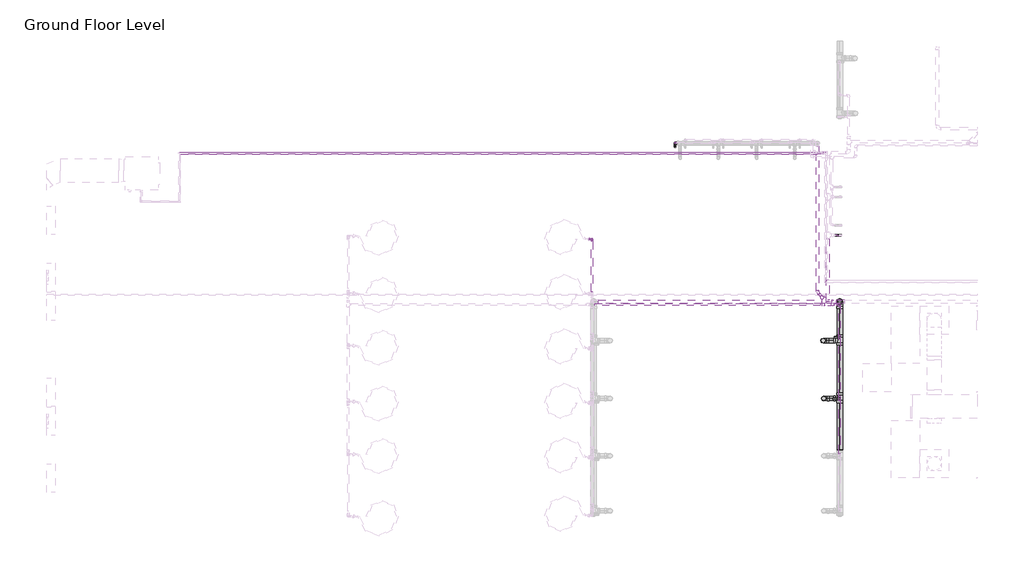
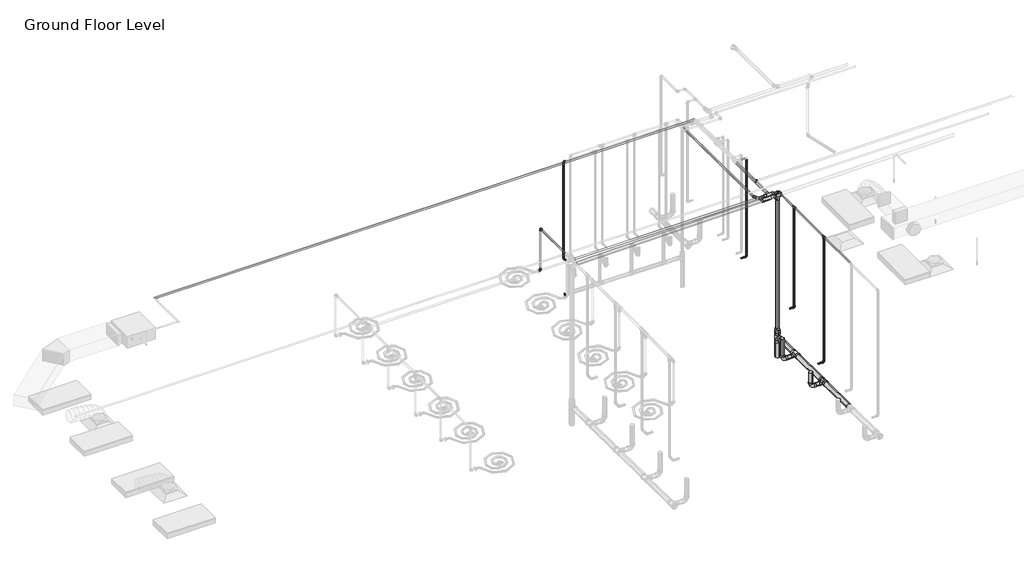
# One storey, part 6 of 75: 34 pipe segments, 26 pipe fittings.
"""IFC4 building model written with IfcOpenShell, lengths in millimetres."""

from ifc_helpers import new_model, si_unit, point, frame, frame_2d, origin, place, context, project, spatial, circle_curve, trimmed, segment, composite_curve, outline, extrude, transform, mapped, element, save
from components import m_bend_pvc_sch_40_dwv_standard_a4b99d37, m_bend_pvc_sch_40_dwv_standard_e3c94691, m_elbow_generic_standard_a088f956, m_elbow_generic_standard_2a704253, m_plug_pvc_sch_40_dwv_standard_af737ab4, m_reducer_pvc_sch_40_dwv_standard_9996614f, m_reducer_pvc_sch_40_dwv_standard_d5f313ea, m_tee_pvc_sch_40_standard_f738ad92, m_tee_reducing_sanitary_pvc_sch_40_dwv_standard_b49161a9, m_tee_reducing_sanitary_pvc_sch_40_dwv_standard_b574f8c1, m_tee_reducing_sanitary_pvc_sch_40_dwv_standard_749dcb00, standard_b266ab3f, standard_517a5a8d, standard_72b35c3b, standard_cd25fed3, standard_f1337950, standard_92e3b147, standard_96815b99

model = new_model("IFC4")

# Units and contexts
model_context = context("Model", 3, world=origin())
ifc_project = project(units=[si_unit("LENGTHUNIT", "METRE", prefix="MILLI")], contexts=[model_context])

# Site, building, storey
site = spatial("IfcSite", under=ifc_project)
building = spatial("IfcBuilding", under=site)
storey = spatial("IfcBuildingStorey", under=building, Name="Ground Floor Level", Elevation=900.0)

# Pipe fittings
placement = place(None, origin())
m_bend_pvc_sch_40_dwv_standard_shape = m_bend_pvc_sch_40_dwv_standard_a4b99d37(model_context)
element("IfcPipeFitting", 1, ObjectType="M_Bend - PVC - Sch 40 - DWV : Standard", at=placement, inside=storey, context=model_context, shape_type="MappedRepresentation", body=[
    mapped(m_bend_pvc_sch_40_dwv_standard_shape, transform((-968.6302333, -38202.7929166, 451.1165277), x_axis=(0.0, 0.0, -1.0), y_axis=(1.0, 0.0, 0.0), z_axis=(0.0, -1.0, 0.0))),
])
element("IfcPipeFitting", 2, ObjectType="M_Bend - PVC - Sch 40 - DWV : Standard", at=placement, inside=storey, context=model_context, shape_type="MappedRepresentation", body=[
    mapped(m_bend_pvc_sch_40_dwv_standard_shape, transform((-980.7754578, -36991.6976494, 439.005575), x_axis=(0.0, 0.0, -1.0), y_axis=(1.0, 0.0, 0.0), z_axis=(0.0, -1.0, 0.0))),
])
m_bend_pvc_sch_40_dwv_standard_2_shape = m_bend_pvc_sch_40_dwv_standard_e3c94691(model_context)
element("IfcPipeFitting", 3, ObjectType="M_Bend - PVC - Sch 40 - DWV : Standard", at=placement, inside=storey, context=model_context, shape_type="MappedRepresentation", body=[
    mapped(m_bend_pvc_sch_40_dwv_standard_2_shape, transform((-1099.4034743, -35983.4440089, 4158.2853209), x_axis=(0.0, -0.9999500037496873, 0.009999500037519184), y_axis=(0.9999712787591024, 7.578648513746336e-05, 0.0075786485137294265), z_axis=(-0.0075790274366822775, 0.00999921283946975, 0.999921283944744))),
])
m_elbow_generic_standard_shape = m_elbow_generic_standard_a088f956(model_context)
element("IfcPipeFitting", 4, ObjectType="M_Elbow - Generic : Standard", at=placement, inside=storey, context=model_context, shape_type="MappedRepresentation", body=[
    mapped(m_elbow_generic_standard_shape, transform((-897.1048173, -35730.466218, 4390.0), x_axis=(0.0, -1.0, 0.0), y_axis=(1.0, 0.0, 0.0), z_axis=(0.0, 0.0, 1.0))),
])
m_elbow_generic_standard_2_shape = m_elbow_generic_standard_2a704253(model_context)
element("IfcPipeFitting", 5, ObjectType="M_Elbow - Generic : Standard", at=placement, inside=storey, context=model_context, shape_type="MappedRepresentation", body=[
    mapped(m_elbow_generic_standard_2_shape, transform((-941.0095887, -35773.5402522, 4377.5), x_axis=(0.0, -1.0, 0.0), y_axis=(1.0, 0.0, 0.0), z_axis=(0.0, 0.0, 1.0))),
])
m_plug_pvc_sch_40_dwv_standard_shape = m_plug_pvc_sch_40_dwv_standard_af737ab4(model_context)
element("IfcPipeFitting", 6, ObjectType="M_Plug - PVC - Sch 40 - DWV : Standard", at=placement, inside=storey, context=model_context, shape_type="MappedRepresentation", body=[
    mapped(m_plug_pvc_sch_40_dwv_standard_shape, transform((-4032.6980903, -32858.7119065, 719.0298098), x_axis=(-0.9999500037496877, 0.0, 0.009999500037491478), y_axis=(-0.009999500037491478, 0.0, -0.9999500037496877), z_axis=(0.0, -1.0, 0.0))),
])
m_reducer_pvc_sch_40_dwv_standard_shape = m_reducer_pvc_sch_40_dwv_standard_9996614f(model_context)
element("IfcPipeFitting", 7, ObjectType="M_Reducer - PVC - Sch 40 - DWV : Standard", at=placement, inside=storey, context=model_context, shape_type="MappedRepresentation", body=[
    mapped(m_reducer_pvc_sch_40_dwv_standard_shape, transform((-633.5600391, -36176.1401483, 560.1642409), x_axis=(0.0, 0.0, 1.0), y_axis=(0.0, 1.0, 0.0), z_axis=(-1.0, 0.0, 0.0))),
])
m_reducer_pvc_sch_40_dwv_standard_2_shape = m_reducer_pvc_sch_40_dwv_standard_d5f313ea(model_context)
element("IfcPipeFitting", 8, ObjectType="M_Reducer - PVC - Sch 40 - DWV : Standard", at=placement, inside=storey, context=model_context, shape_type="MappedRepresentation", body=[
    mapped(m_reducer_pvc_sch_40_dwv_standard_2_shape, transform((-978.5266614, -36104.3135805, 4160.1162588), x_axis=(-0.7070640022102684, 0.7070403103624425, -0.012429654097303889), y_axis=(-0.7070788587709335, -0.7071326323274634, -0.0017110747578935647), z_axis=(-0.009999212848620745, 0.007578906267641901, 0.9999212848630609))),
])
m_tee_pvc_sch_40_standard_shape = m_tee_pvc_sch_40_standard_f738ad92(model_context)
element("IfcPipeFitting", 9, ObjectType="M_Tee - PVC - Sch 40 : Standard", at=placement, inside=storey, context=model_context, shape_type="MappedRepresentation", body=[
    mapped(m_tee_pvc_sch_40_standard_shape, transform((-906.6976867, -36176.1401483, 4161.3789582), x_axis=(0.9999500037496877, 0.0, 0.009999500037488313), y_axis=(-7.578527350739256e-05, -0.9999712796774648, 0.007578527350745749), z_axis=(0.009999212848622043, -0.0075789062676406, -0.9999212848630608))),
])
m_tee_reducing_sanitary_pvc_sch_40_dwv_standard_shape = m_tee_reducing_sanitary_pvc_sch_40_dwv_standard_b49161a9(model_context)
element("IfcPipeFitting", 10, ObjectType="M_Tee Reducing Sanitary - PVC - Sch 40 - DWV : Standard", at=placement, inside=storey, context=model_context, shape_type="MappedRepresentation", body=[
    mapped(m_tee_reducing_sanitary_pvc_sch_40_dwv_standard_shape, transform((-633.5600391, -38202.7914168, 451.2665127), x_axis=(0.0, -0.9999500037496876, 0.009999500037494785), y_axis=(1.0, 0.0, 0.0), z_axis=(0.0, 0.009999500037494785, 0.9999500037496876))),
])
element("IfcPipeFitting", 11, ObjectType="M_Tee Reducing Sanitary - PVC - Sch 40 - DWV : Standard", at=placement, inside=storey, context=model_context, shape_type="MappedRepresentation", body=[
    mapped(m_tee_reducing_sanitary_pvc_sch_40_dwv_standard_shape, transform((-633.5600391, -36991.6961495, 439.15556), x_axis=(0.0, -0.9999500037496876, 0.0099995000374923), y_axis=(1.0, 0.0, 0.0), z_axis=(0.0, 0.0099995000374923, 0.9999500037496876))),
])
m_tee_reducing_sanitary_pvc_sch_40_dwv_standard_2_shape = m_tee_reducing_sanitary_pvc_sch_40_dwv_standard_b574f8c1(model_context)
element("IfcPipeFitting", 12, ObjectType="M_Tee Reducing Sanitary - PVC - Sch 40 - DWV : Standard", at=placement, inside=storey, context=model_context, shape_type="MappedRepresentation", body=[
    mapped(m_tee_reducing_sanitary_pvc_sch_40_dwv_standard_2_shape, transform((-633.5600391, -36176.1401483, 4164.1103347), x_axis=(-0.9999500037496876, 0.0, -0.009999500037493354), y_axis=(-0.009999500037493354, 0.0, 0.9999500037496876), z_axis=(0.0, 1.0, 0.0))),
])
m_tee_reducing_sanitary_pvc_sch_40_dwv_standard_3_shape = m_tee_reducing_sanitary_pvc_sch_40_dwv_standard_749dcb00(model_context)
element("IfcPipeFitting", 13, ObjectType="M_Tee Reducing Sanitary - PVC - Sch 40 - DWV : Standard", at=placement, inside=storey, context=model_context, shape_type="MappedRepresentation", body=[
    mapped(m_tee_reducing_sanitary_pvc_sch_40_dwv_standard_3_shape, transform((-633.5600391, -36176.1401483, 431.0), x_axis=(0.0, 0.0, 1.0), y_axis=(0.0, 1.0, 0.0), z_axis=(-1.0, 0.0, 0.0))),
])
standard_shape = standard_b266ab3f(model_context)
element("IfcPipeFitting", 14, ObjectType="M_Elbow - CPVC - Sch 40 : Standard", at=placement, inside=storey, context=model_context, shape_type="MappedRepresentation", body=[
    mapped(standard_shape, transform((-607.2327605, -34785.0821277, 1690.0), x_axis=(1.0, 0.0, 0.0), y_axis=(0.0, 0.0, 1.0), z_axis=(0.0, -1.0, 0.0))),
])
element("IfcPipeFitting", 15, ObjectType="M_Elbow - CPVC - Sch 40 : Standard", at=placement, inside=storey, context=model_context, shape_type="MappedRepresentation", body=[
    mapped(standard_shape, transform((-4077.5302417, -32850.870708, 1690.0), x_axis=(0.0, 0.0, -1.0), y_axis=(0.0, -1.0, 0.0), z_axis=(-1.0, 0.0, 0.0))),
])
element("IfcPipeFitting", 16, ObjectType="M_Elbow - CPVC - Sch 40 : Standard", at=placement, inside=storey, context=model_context, shape_type="MappedRepresentation", body=[
    mapped(standard_shape, transform((-4077.5302417, -32850.870708, 4250.0), x_axis=(-1.0, 0.0, 0.0), y_axis=(0.0, 0.0, -1.0), z_axis=(0.0, -1.0, 0.0))),
])
standard_2_shape = standard_517a5a8d(model_context)
element("IfcPipeFitting", 17, ObjectType="M_Elbow - CPVC - Sch 40 : Standard", at=placement, inside=storey, context=model_context, shape_type="MappedRepresentation", body=[
    mapped(standard_2_shape, transform((-639.6485359, -36234.6855451, 4300.0), x_axis=(0.0, 1.0, 0.0), y_axis=(-1.0, 0.0, 0.0), z_axis=(0.0, 0.0, 1.0))),
])
element("IfcPipeFitting", 18, ObjectType="M_Elbow - CPVC - Sch 40 : Standard", at=placement, inside=storey, context=model_context, shape_type="MappedRepresentation", body=[
    mapped(standard_2_shape, transform((-639.6485359, -36918.2588832, 1655.0), x_axis=(0.0, 0.0, -1.0), y_axis=(-1.0, 0.0, 0.0), z_axis=(0.0, 1.0, 0.0))),
])
element("IfcPipeFitting", 19, ObjectType="M_Elbow - CPVC - Sch 40 : Standard", at=placement, inside=storey, context=model_context, shape_type="MappedRepresentation", body=[
    mapped(standard_2_shape, transform((-5815.4900472, -34864.6926466, 3200.0), x_axis=(1.0, 0.0, 0.0), y_axis=(0.0, 0.0, 1.0), z_axis=(0.0, -1.0, 0.0))),
])
element("IfcPipeFitting", 20, ObjectType="M_Elbow - CPVC - Sch 40 : Standard", at=placement, inside=storey, context=model_context, shape_type="MappedRepresentation", body=[
    mapped(standard_2_shape, transform((-5815.4900472, -34864.6926466, 4300.0), x_axis=(0.0, 0.0, 1.0), y_axis=(0.0, -1.0, 0.0), z_axis=(1.0, 0.0, 0.0))),
])
standard_3_shape = standard_72b35c3b(model_context)
element("IfcPipeFitting", 21, ObjectType="M_Tee - CPVC - Sch 40 : Standard", at=placement, inside=storey, context=model_context, shape_type="MappedRepresentation", body=[
    mapped(standard_3_shape, transform((-639.6485359, -38202.7929166, 4300.0), x_axis=(0.0, -1.0, 0.0), y_axis=(0.0, 0.0, 1.0), z_axis=(-1.0, 0.0, 0.0))),
])
element("IfcPipeFitting", 22, ObjectType="M_Tee - CPVC - Sch 40 : Standard", at=placement, inside=storey, context=model_context, shape_type="MappedRepresentation", body=[
    mapped(standard_3_shape, transform((-639.6485359, -36918.2588832, 4300.0), x_axis=(0.0, -1.0, 0.0), y_axis=(0.0, 0.0, 1.0), z_axis=(-1.0, 0.0, 0.0))),
])
standard_4_shape = standard_cd25fed3(model_context)
element("IfcPipeFitting", 23, ObjectType="M_Tee - CPVC - Sch 40 : Standard", at=placement, inside=storey, context=model_context, shape_type="MappedRepresentation", body=[
    mapped(standard_4_shape, transform((-881.5205995, -36234.6855451, 4300.0), x_axis=(-1.0, 0.0, 0.0), y_axis=(0.0, -1.0, 0.0), z_axis=(0.0, 0.0, 1.0))),
])
standard_5_shape = standard_f1337950(model_context)
element("IfcPipeFitting", 24, ObjectType="M_Coupling Reducing - CPVC - Sch 40 : Standard", at=placement, inside=storey, context=model_context, shape_type="MappedRepresentation", body=[
    mapped(standard_5_shape, transform((-814.8455995, -36234.6855451, 4300.0), x_axis=(1.0, 0.0, 0.0), y_axis=(0.0, 1.0, 0.0), z_axis=(0.0, 0.0, 1.0))),
])
standard_6_shape = standard_92e3b147(model_context)
element("IfcPipeFitting", 25, ObjectType="M_Coupling Reducing - CPVC - Sch 40 : Standard", at=placement, inside=storey, context=model_context, shape_type="MappedRepresentation", body=[
    mapped(standard_6_shape, transform((-948.1955995, -36234.6855451, 4300.0), x_axis=(-1.0, 0.0, 0.0), y_axis=(0.0, -1.0, 0.0), z_axis=(0.0, 0.0, 1.0))),
])
standard_7_shape = standard_96815b99(model_context)
element("IfcPipeFitting", 26, ObjectType="M_Elbow - CPVC - Sch 40 : Standard", at=placement, inside=storey, context=model_context, shape_type="MappedRepresentation", body=[
    mapped(standard_7_shape, transform((-639.6485359, -38202.7929166, 983.4999978), x_axis=(0.0, 0.0, -1.0), y_axis=(-1.0, 0.0, 0.0), z_axis=(0.0, 1.0, 0.0))),
])

# Pipe segments
element("IfcPipeSegment", 27, ObjectType="CPVC", at=placement, inside=storey, context=model_context, shape_type="SweptSolid", body=[
    extrude(outline(composite_curve([segment(trimmed(circle_curve(frame_2d((4300.0, -881.5205995)), 30.1625), [point((4300.0, -911.6830995))], [point((4269.8375, -881.5205995))], False, "CARTESIAN"), True, "CONTINUOUS"), segment(trimmed(circle_curve(frame_2d((4300.0, -881.5205995)), 30.1625), [point((4269.8375, -881.5205995))], [point((4300.0, -851.3580995))], False, "CARTESIAN"), True, "CONTINUOUS"), segment(trimmed(circle_curve(frame_2d((4300.0, -881.5205995)), 30.1625), [point((4300.0, -851.3580995))], [point((4330.1625, -881.5205995))], False, "CARTESIAN"), True, "CONTINUOUS"), segment(trimmed(circle_curve(frame_2d((4300.0, -881.5205995)), 30.1625), [point((4330.1625, -881.5205995))], [point((4300.0, -911.6830995))], False, "CARTESIAN"), True, "CONTINUOUS")], self_intersect=False)), frame((0.0, -36168.0105451, 0.0), z_axis=(0.0, 1.0, 0.0), x_axis=(0.0, 0.0, 1.0)), (0.0, 0.0, 1.0), 1316.2534174),
])
element("IfcPipeSegment", 28, ObjectType="CPVC", at=placement, inside=storey, context=model_context, shape_type="SweptSolid", body=[
    extrude(outline(composite_curve([segment(trimmed(circle_curve(frame_2d((-36234.6855451, 4300.0)), 16.7005), [point((-36251.3860451, 4300.0))], [point((-36234.6855451, 4316.7005))], False, "CARTESIAN"), True, "CONTINUOUS"), segment(trimmed(circle_curve(frame_2d((-36234.6855451, 4300.0)), 16.7005), [point((-36234.6855451, 4316.7005))], [point((-36217.9850451, 4300.0))], False, "CARTESIAN"), True, "CONTINUOUS"), segment(trimmed(circle_curve(frame_2d((-36234.6855451, 4300.0)), 16.7005), [point((-36217.9850451, 4300.0))], [point((-36234.6855451, 4283.2995))], False, "CARTESIAN"), True, "CONTINUOUS"), segment(trimmed(circle_curve(frame_2d((-36234.6855451, 4300.0)), 16.7005), [point((-36234.6855451, 4283.2995))], [point((-36251.3860451, 4300.0))], False, "CARTESIAN"), True, "CONTINUOUS")], self_intersect=False)), frame((-735.0467245, 0.0, 0.0), z_axis=(1.0, 0.0, 0.0), x_axis=(0.0, 1.0, 0.0)), (0.0, 0.0, 1.0), 52.1356386),
])
element("IfcPipeSegment", 29, ObjectType="CPVC", at=placement, inside=storey, context=model_context, shape_type="SweptSolid", body=[
    extrude(outline(composite_curve([segment(trimmed(circle_curve(frame_2d((4300.0, -639.6485359)), 16.7005), [point((4300.0, -656.3490359))], [point((4283.2995, -639.6485359))], False, "CARTESIAN"), True, "CONTINUOUS"), segment(trimmed(circle_curve(frame_2d((4300.0, -639.6485359)), 16.7005), [point((4283.2995, -639.6485359))], [point((4300.0, -622.9480359))], False, "CARTESIAN"), True, "CONTINUOUS"), segment(trimmed(circle_curve(frame_2d((4300.0, -639.6485359)), 16.7005), [point((4300.0, -622.9480359))], [point((4316.7005, -639.6485359))], False, "CARTESIAN"), True, "CONTINUOUS"), segment(trimmed(circle_curve(frame_2d((4300.0, -639.6485359)), 16.7005), [point((4316.7005, -639.6485359))], [point((4300.0, -656.3490359))], False, "CARTESIAN"), True, "CONTINUOUS")], self_intersect=False)), frame((0.0, -39363.1023066, 0.0), z_axis=(0.0, 1.0, 0.0), x_axis=(0.0, 0.0, 1.0)), (0.0, 0.0, 1.0), 1120.60919),
])
element("IfcPipeSegment", 30, ObjectType="CPVC", at=placement, inside=storey, context=model_context, shape_type="SweptSolid", body=[
    extrude(outline(composite_curve([segment(trimmed(circle_curve(frame_2d((-38202.7929166, 983.4999921)), 16.7005), [point((-38186.0924166, 983.4999921))], [point((-38202.7929166, 966.7994921))], False, "CARTESIAN"), True, "CONTINUOUS"), segment(trimmed(circle_curve(frame_2d((-38202.7929166, 983.4999921)), 16.7005), [point((-38202.7929166, 966.7994921))], [point((-38219.4934166, 983.4999921))], False, "CARTESIAN"), True, "CONTINUOUS"), segment(trimmed(circle_curve(frame_2d((-38202.7929166, 983.4999921)), 16.7005), [point((-38219.4934166, 983.4999921))], [point((-38202.7929166, 1000.2004921))], False, "CARTESIAN"), True, "CONTINUOUS"), segment(trimmed(circle_curve(frame_2d((-38202.7929166, 983.4999921)), 16.7005), [point((-38202.7929166, 1000.2004921))], [point((-38186.0924166, 983.4999921))], False, "CARTESIAN"), True, "CONTINUOUS")], self_intersect=False)), frame((-782.4615578, 0.0, 0.0), z_axis=(1.0, 0.0, 0.0), x_axis=(0.0, 1.0, 0.0)), (0.0, 0.0, 1.0), 99.5504746),
])
element("IfcPipeSegment", 31, ObjectType="CPVC", at=placement, inside=storey, context=model_context, shape_type="SweptSolid", body=[
    extrude(outline(composite_curve([segment(trimmed(circle_curve(frame_2d((-639.6485359, -38202.7929166)), 16.7005), [point((-622.9480359, -38202.7929166))], [point((-639.6485359, -38219.4934166))], False, "CARTESIAN"), True, "CONTINUOUS"), segment(trimmed(circle_curve(frame_2d((-639.6485359, -38202.7929166)), 16.7005), [point((-639.6485359, -38219.4934166))], [point((-656.3490359, -38202.7929166))], False, "CARTESIAN"), True, "CONTINUOUS"), segment(trimmed(circle_curve(frame_2d((-639.6485359, -38202.7929166)), 16.7005), [point((-656.3490359, -38202.7929166))], [point((-639.6485359, -38186.0924166))], False, "CARTESIAN"), True, "CONTINUOUS"), segment(trimmed(circle_curve(frame_2d((-639.6485359, -38202.7929166)), 16.7005), [point((-639.6485359, -38186.0924166))], [point((-622.9480359, -38202.7929166))], False, "CARTESIAN"), True, "CONTINUOUS")], self_intersect=False)), frame((0.0, 0.0, 1026.762545), z_axis=(0.0, 0.0, 1.0), x_axis=(1.0, 0.0, 0.0)), (0.0, 0.0, 1.0), 3233.537255),
])
element("IfcPipeSegment", 32, ObjectType="CPVC", at=placement, inside=storey, context=model_context, shape_type="SweptSolid", body=[
    extrude(outline(composite_curve([segment(trimmed(circle_curve(frame_2d((4300.0, -639.6485359)), 16.7005), [point((4300.0, -656.3490359))], [point((4283.2995, -639.6485359))], False, "CARTESIAN"), True, "CONTINUOUS"), segment(trimmed(circle_curve(frame_2d((4300.0, -639.6485359)), 16.7005), [point((4283.2995, -639.6485359))], [point((4300.0, -622.9480359))], False, "CARTESIAN"), True, "CONTINUOUS"), segment(trimmed(circle_curve(frame_2d((4300.0, -639.6485359)), 16.7005), [point((4300.0, -622.9480359))], [point((4316.7005, -639.6485359))], False, "CARTESIAN"), True, "CONTINUOUS"), segment(trimmed(circle_curve(frame_2d((4300.0, -639.6485359)), 16.7005), [point((4316.7005, -639.6485359))], [point((4300.0, -656.3490359))], False, "CARTESIAN"), True, "CONTINUOUS")], self_intersect=False)), frame((0.0, -38163.0927166, 0.0), z_axis=(0.0, 1.0, 0.0), x_axis=(0.0, 0.0, 1.0)), (0.0, 0.0, 1.0), 1205.1336334),
])
element("IfcPipeSegment", 33, ObjectType="CPVC", at=placement, inside=storey, context=model_context, shape_type="SweptSolid", body=[
    extrude(outline(composite_curve([segment(trimmed(circle_curve(frame_2d((-36918.2588832, 1655.0)), 16.7005), [point((-36901.5583832, 1655.0))], [point((-36918.2588832, 1638.2995))], False, "CARTESIAN"), True, "CONTINUOUS"), segment(trimmed(circle_curve(frame_2d((-36918.2588832, 1655.0)), 16.7005), [point((-36918.2588832, 1638.2995))], [point((-36934.9593832, 1655.0))], False, "CARTESIAN"), True, "CONTINUOUS"), segment(trimmed(circle_curve(frame_2d((-36918.2588832, 1655.0)), 16.7005), [point((-36934.9593832, 1655.0))], [point((-36918.2588832, 1671.7005))], False, "CARTESIAN"), True, "CONTINUOUS"), segment(trimmed(circle_curve(frame_2d((-36918.2588832, 1655.0)), 16.7005), [point((-36918.2588832, 1671.7005))], [point((-36901.5583832, 1655.0))], False, "CARTESIAN"), True, "CONTINUOUS")], self_intersect=False)), frame((-747.2327605, 0.0, 0.0), z_axis=(1.0, 0.0, 0.0), x_axis=(0.0, 1.0, 0.0)), (0.0, 0.0, 1.0), 64.3216746),
])
element("IfcPipeSegment", 34, ObjectType="CPVC", at=placement, inside=storey, context=model_context, shape_type="SweptSolid", body=[
    extrude(outline(composite_curve([segment(trimmed(circle_curve(frame_2d((-639.6485359, -36918.2588832)), 16.7005), [point((-622.9480359, -36918.2588832))], [point((-639.6485359, -36934.9593832))], False, "CARTESIAN"), True, "CONTINUOUS"), segment(trimmed(circle_curve(frame_2d((-639.6485359, -36918.2588832)), 16.7005), [point((-639.6485359, -36934.9593832))], [point((-656.3490359, -36918.2588832))], False, "CARTESIAN"), True, "CONTINUOUS"), segment(trimmed(circle_curve(frame_2d((-639.6485359, -36918.2588832)), 16.7005), [point((-656.3490359, -36918.2588832))], [point((-639.6485359, -36901.5583832))], False, "CARTESIAN"), True, "CONTINUOUS"), segment(trimmed(circle_curve(frame_2d((-639.6485359, -36918.2588832)), 16.7005), [point((-639.6485359, -36901.5583832))], [point((-622.9480359, -36918.2588832))], False, "CARTESIAN"), True, "CONTINUOUS")], self_intersect=False)), frame((0.0, 0.0, 1698.26255), z_axis=(0.0, 0.0, 1.0), x_axis=(1.0, 0.0, 0.0)), (0.0, 0.0, 1.0), 2562.03725),
])
element("IfcPipeSegment", 35, ObjectType="CPVC", at=placement, inside=storey, context=model_context, shape_type="SweptSolid", body=[
    extrude(outline(composite_curve([segment(trimmed(circle_curve(frame_2d((4300.0, -639.6485359)), 16.7005), [point((4300.0, -656.3490359))], [point((4283.2995, -639.6485359))], False, "CARTESIAN"), True, "CONTINUOUS"), segment(trimmed(circle_curve(frame_2d((4300.0, -639.6485359)), 16.7005), [point((4283.2995, -639.6485359))], [point((4300.0, -622.9480359))], False, "CARTESIAN"), True, "CONTINUOUS"), segment(trimmed(circle_curve(frame_2d((4300.0, -639.6485359)), 16.7005), [point((4300.0, -622.9480359))], [point((4316.7005, -639.6485359))], False, "CARTESIAN"), True, "CONTINUOUS"), segment(trimmed(circle_curve(frame_2d((4300.0, -639.6485359)), 16.7005), [point((4316.7005, -639.6485359))], [point((4300.0, -656.3490359))], False, "CARTESIAN"), True, "CONTINUOUS")], self_intersect=False)), frame((0.0, -36878.5586832, 0.0), z_axis=(0.0, 1.0, 0.0), x_axis=(0.0, 0.0, 1.0)), (0.0, 0.0, 1.0), 600.610588),
])
element("IfcPipeSegment", 36, ObjectType="CPVC", at=placement, inside=storey, context=model_context, shape_type="SweptSolid", body=[
    extrude(outline(composite_curve([segment(trimmed(circle_curve(frame_2d((-34785.0821277, 1690.0)), 13.335), [point((-34798.4171277, 1690.0))], [point((-34785.0821277, 1703.335))], False, "CARTESIAN"), True, "CONTINUOUS"), segment(trimmed(circle_curve(frame_2d((-34785.0821277, 1690.0)), 13.335), [point((-34785.0821277, 1703.335))], [point((-34771.7471277, 1690.0))], False, "CARTESIAN"), True, "CONTINUOUS"), segment(trimmed(circle_curve(frame_2d((-34785.0821277, 1690.0)), 13.335), [point((-34771.7471277, 1690.0))], [point((-34785.0821277, 1676.665))], False, "CARTESIAN"), True, "CONTINUOUS"), segment(trimmed(circle_curve(frame_2d((-34785.0821277, 1690.0)), 13.335), [point((-34785.0821277, 1676.665))], [point((-34798.4171277, 1690.0))], False, "CARTESIAN"), True, "CONTINUOUS")], self_intersect=False)), frame((-737.2327605, 0.0, 0.0), z_axis=(1.0, 0.0, 0.0), x_axis=(0.0, 1.0, 0.0)), (0.0, 0.0, 1.0), 94.67495),
])
element("IfcPipeSegment", 37, ObjectType="CPVC", at=placement, inside=storey, context=model_context, shape_type="SweptSolid", body=[
    extrude(outline(composite_curve([segment(trimmed(circle_curve(frame_2d((-34785.0821277, 4300.0)), 13.335), [point((-34798.4171277, 4300.0))], [point((-34785.0821277, 4313.335))], False, "CARTESIAN"), True, "CONTINUOUS"), segment(trimmed(circle_curve(frame_2d((-34785.0821277, 4300.0)), 13.335), [point((-34785.0821277, 4313.335))], [point((-34771.7471277, 4300.0))], False, "CARTESIAN"), True, "CONTINUOUS"), segment(trimmed(circle_curve(frame_2d((-34785.0821277, 4300.0)), 13.335), [point((-34771.7471277, 4300.0))], [point((-34785.0821277, 4286.665))], False, "CARTESIAN"), True, "CONTINUOUS"), segment(trimmed(circle_curve(frame_2d((-34785.0821277, 4300.0)), 13.335), [point((-34785.0821277, 4286.665))], [point((-34798.4171277, 4300.0))], False, "CARTESIAN"), True, "CONTINUOUS")], self_intersect=False)), frame((-738.3487245, 0.0, 0.0), z_axis=(1.0, 0.0, 0.0), x_axis=(0.0, 1.0, 0.0)), (0.0, 0.0, 1.0), 95.790914),
])
element("IfcPipeSegment", 38, ObjectType="CPVC", at=placement, inside=storey, context=model_context, shape_type="SweptSolid", body=[
    extrude(outline(composite_curve([segment(trimmed(circle_curve(frame_2d((-607.2327605, -34785.0821277)), 13.335), [point((-620.5677605, -34785.0821277))], [point((-607.2327605, -34771.7471277))], False, "CARTESIAN"), True, "CONTINUOUS"), segment(trimmed(circle_curve(frame_2d((-607.2327605, -34785.0821277)), 13.335), [point((-607.2327605, -34771.7471277))], [point((-593.8977605, -34785.0821277))], False, "CARTESIAN"), True, "CONTINUOUS"), segment(trimmed(circle_curve(frame_2d((-607.2327605, -34785.0821277)), 13.335), [point((-593.8977605, -34785.0821277))], [point((-607.2327605, -34798.4171277))], False, "CARTESIAN"), True, "CONTINUOUS"), segment(trimmed(circle_curve(frame_2d((-607.2327605, -34785.0821277)), 13.335), [point((-607.2327605, -34798.4171277))], [point((-620.5677605, -34785.0821277))], False, "CARTESIAN"), True, "CONTINUOUS")], self_intersect=False)), frame((0.0, 0.0, 1725.32505), z_axis=(0.0, 0.0, 1.0), x_axis=(1.0, 0.0, 0.0)), (0.0, 0.0, 1.0), 2539.3499),
])
element("IfcPipeSegment", 39, ObjectType="CPVC", at=placement, inside=storey, context=model_context, shape_type="SweptSolid", body=[
    extrude(outline(composite_curve([segment(trimmed(circle_curve(frame_2d((-36234.6855451, 4300.0)), 24.13), [point((-36210.5555451, 4300.0))], [point((-36234.6855451, 4275.87))], False, "CARTESIAN"), True, "CONTINUOUS"), segment(trimmed(circle_curve(frame_2d((-36234.6855451, 4300.0)), 24.13), [point((-36234.6855451, 4275.87))], [point((-36258.8155451, 4300.0))], False, "CARTESIAN"), True, "CONTINUOUS"), segment(trimmed(circle_curve(frame_2d((-36234.6855451, 4300.0)), 24.13), [point((-36258.8155451, 4300.0))], [point((-36234.6855451, 4324.13))], False, "CARTESIAN"), True, "CONTINUOUS"), segment(trimmed(circle_curve(frame_2d((-36234.6855451, 4300.0)), 24.13), [point((-36234.6855451, 4324.13))], [point((-36210.5555451, 4300.0))], False, "CARTESIAN"), True, "CONTINUOUS")], self_intersect=False)), frame((-5753.5648472, 0.0, 0.0), z_axis=(1.0, 0.0, 0.0), x_axis=(0.0, 1.0, 0.0)), (0.0, 0.0, 1.0), 4713.9504977),
])
element("IfcPipeSegment", 40, ObjectType="CPVC", at=placement, inside=storey, context=model_context, shape_type="SweptSolid", body=[
    extrude(outline(composite_curve([segment(trimmed(circle_curve(frame_2d((-34864.6926466, 3200.0)), 16.7005), [point((-34881.3931466, 3200.0))], [point((-34864.6926466, 3216.7005))], False, "CARTESIAN"), True, "CONTINUOUS"), segment(trimmed(circle_curve(frame_2d((-34864.6926466, 3200.0)), 16.7005), [point((-34864.6926466, 3216.7005))], [point((-34847.9921466, 3200.0))], False, "CARTESIAN"), True, "CONTINUOUS"), segment(trimmed(circle_curve(frame_2d((-34864.6926466, 3200.0)), 16.7005), [point((-34847.9921466, 3200.0))], [point((-34864.6926466, 3183.2995))], False, "CARTESIAN"), True, "CONTINUOUS"), segment(trimmed(circle_curve(frame_2d((-34864.6926466, 3200.0)), 16.7005), [point((-34864.6926466, 3183.2995))], [point((-34881.3931466, 3200.0))], False, "CARTESIAN"), True, "CONTINUOUS")], self_intersect=False)), frame((-5868.9493142, 0.0, 0.0), z_axis=(1.0, 0.0, 0.0), x_axis=(0.0, 1.0, 0.0)), (0.0, 0.0, 1.0), 10.1967171),
])
element("IfcPipeSegment", 41, ObjectType="CPVC", at=placement, inside=storey, context=model_context, shape_type="SweptSolid", body=[
    extrude(outline(composite_curve([segment(trimmed(circle_curve(frame_2d((-5815.4900472, -34864.6926466)), 16.7005), [point((-5832.1905472, -34864.6926466))], [point((-5815.4900472, -34847.9921466))], False, "CARTESIAN"), True, "CONTINUOUS"), segment(trimmed(circle_curve(frame_2d((-5815.4900472, -34864.6926466)), 16.7005), [point((-5815.4900472, -34847.9921466))], [point((-5798.7895472, -34864.6926466))], False, "CARTESIAN"), True, "CONTINUOUS"), segment(trimmed(circle_curve(frame_2d((-5815.4900472, -34864.6926466)), 16.7005), [point((-5798.7895472, -34864.6926466))], [point((-5815.4900472, -34881.3931466))], False, "CARTESIAN"), True, "CONTINUOUS"), segment(trimmed(circle_curve(frame_2d((-5815.4900472, -34864.6926466)), 16.7005), [point((-5815.4900472, -34881.3931466))], [point((-5832.1905472, -34864.6926466))], False, "CARTESIAN"), True, "CONTINUOUS")], self_intersect=False)), frame((0.0, 0.0, 3243.26255), z_axis=(0.0, 0.0, 1.0), x_axis=(1.0, 0.0, 0.0)), (0.0, 0.0, 1.0), 1013.4749),
])
element("IfcPipeSegment", 42, ObjectType="CPVC", at=placement, inside=storey, context=model_context, shape_type="SweptSolid", body=[
    extrude(outline(composite_curve([segment(trimmed(circle_curve(frame_2d((4300.0, -5815.4900472)), 16.7005), [point((4300.0, -5832.1905472))], [point((4283.2995, -5815.4900472))], False, "CARTESIAN"), True, "CONTINUOUS"), segment(trimmed(circle_curve(frame_2d((4300.0, -5815.4900472)), 16.7005), [point((4283.2995, -5815.4900472))], [point((4300.0, -5798.7895472))], False, "CARTESIAN"), True, "CONTINUOUS"), segment(trimmed(circle_curve(frame_2d((4300.0, -5815.4900472)), 16.7005), [point((4300.0, -5798.7895472))], [point((4316.7005, -5815.4900472))], False, "CARTESIAN"), True, "CONTINUOUS"), segment(trimmed(circle_curve(frame_2d((4300.0, -5815.4900472)), 16.7005), [point((4316.7005, -5815.4900472))], [point((4300.0, -5832.1905472))], False, "CARTESIAN"), True, "CONTINUOUS")], self_intersect=False)), frame((0.0, -35973.0833466, 0.0), z_axis=(0.0, 1.0, 0.0), x_axis=(0.0, 0.0, 1.0)), (0.0, 0.0, 1.0), 1065.12815),
])
element("IfcPipeSegment", 43, ObjectType="CPVC", at=placement, inside=storey, context=model_context, shape_type="SweptSolid", body=[
    extrude(outline(composite_curve([segment(trimmed(circle_curve(frame_2d((1690.0, -4077.5302417)), 13.335), [point((1690.0, -4090.8652417))], [point((1676.665, -4077.5302417))], False, "CARTESIAN"), True, "CONTINUOUS"), segment(trimmed(circle_curve(frame_2d((1690.0, -4077.5302417)), 13.335), [point((1676.665, -4077.5302417))], [point((1690.0, -4064.1952417))], False, "CARTESIAN"), True, "CONTINUOUS"), segment(trimmed(circle_curve(frame_2d((1690.0, -4077.5302417)), 13.335), [point((1690.0, -4064.1952417))], [point((1703.335, -4077.5302417))], False, "CARTESIAN"), True, "CONTINUOUS"), segment(trimmed(circle_curve(frame_2d((1690.0, -4077.5302417)), 13.335), [point((1703.335, -4077.5302417))], [point((1690.0, -4090.8652417))], False, "CARTESIAN"), True, "CONTINUOUS")], self_intersect=False)), frame((0.0, -32944.7846466, 0.0), z_axis=(0.0, 1.0, 0.0), x_axis=(0.0, 0.0, 1.0)), (0.0, 0.0, 1.0), 58.5888886),
])
element("IfcPipeSegment", 44, ObjectType="CPVC", at=placement, inside=storey, context=model_context, shape_type="SweptSolid", body=[
    extrude(outline(composite_curve([segment(trimmed(circle_curve(frame_2d((-4077.5302417, -32850.870708)), 13.335), [point((-4064.1952417, -32850.870708))], [point((-4077.5302417, -32864.205708))], False, "CARTESIAN"), True, "CONTINUOUS"), segment(trimmed(circle_curve(frame_2d((-4077.5302417, -32850.870708)), 13.335), [point((-4077.5302417, -32864.205708))], [point((-4090.8652417, -32850.870708))], False, "CARTESIAN"), True, "CONTINUOUS"), segment(trimmed(circle_curve(frame_2d((-4077.5302417, -32850.870708)), 13.335), [point((-4090.8652417, -32850.870708))], [point((-4077.5302417, -32837.535708))], False, "CARTESIAN"), True, "CONTINUOUS"), segment(trimmed(circle_curve(frame_2d((-4077.5302417, -32850.870708)), 13.335), [point((-4077.5302417, -32837.535708))], [point((-4064.1952417, -32850.870708))], False, "CARTESIAN"), True, "CONTINUOUS")], self_intersect=False)), frame((0.0, 0.0, 1725.32505), z_axis=(0.0, 0.0, 1.0), x_axis=(1.0, 0.0, 0.0)), (0.0, 0.0, 1.0), 2489.3499),
])
element("IfcPipeSegment", 45, ObjectType="Copper", at=placement, inside=storey, context=model_context, shape_type="SweptSolid", body=[
    extrude(outline(composite_curve([segment(trimmed(circle_curve(frame_2d((-33050.466218, 4390.0)), 6.5), [point((-33043.966218, 4390.0))], [point((-33050.466218, 4383.5))], False, "CARTESIAN"), True, "CONTINUOUS"), segment(trimmed(circle_curve(frame_2d((-33050.466218, 4390.0)), 6.5), [point((-33050.466218, 4383.5))], [point((-33056.966218, 4390.0))], False, "CARTESIAN"), True, "CONTINUOUS"), segment(trimmed(circle_curve(frame_2d((-33050.466218, 4390.0)), 6.5), [point((-33056.966218, 4390.0))], [point((-33050.466218, 4396.5))], False, "CARTESIAN"), True, "CONTINUOUS"), segment(trimmed(circle_curve(frame_2d((-33050.466218, 4390.0)), 6.5), [point((-33050.466218, 4396.5))], [point((-33043.966218, 4390.0))], False, "CARTESIAN"), True, "CONTINUOUS")], self_intersect=False)), frame((-14442.8173173, 0.0, 0.0), z_axis=(1.0, 0.0, 0.0), x_axis=(0.0, 1.0, 0.0)), (0.0, 0.0, 1.0), 13531.425),
])
element("IfcPipeSegment", 46, ObjectType="Copper", at=placement, inside=storey, context=model_context, shape_type="SweptSolid", body=[
    extrude(outline(composite_curve([segment(trimmed(circle_curve(frame_2d((-33088.5402522, 4377.5)), 3.35), [point((-33085.1902522, 4377.5))], [point((-33088.5402522, 4374.15))], False, "CARTESIAN"), True, "CONTINUOUS"), segment(trimmed(circle_curve(frame_2d((-33088.5402522, 4377.5)), 3.35), [point((-33088.5402522, 4374.15))], [point((-33091.8902522, 4377.5))], False, "CARTESIAN"), True, "CONTINUOUS"), segment(trimmed(circle_curve(frame_2d((-33088.5402522, 4377.5)), 3.35), [point((-33091.8902522, 4377.5))], [point((-33088.5402522, 4380.85))], False, "CARTESIAN"), True, "CONTINUOUS"), segment(trimmed(circle_curve(frame_2d((-33088.5402522, 4377.5)), 3.35), [point((-33088.5402522, 4380.85))], [point((-33085.1902522, 4377.5))], False, "CARTESIAN"), True, "CONTINUOUS")], self_intersect=False)), frame((-14414.8720887, 0.0, 0.0), z_axis=(1.0, 0.0, 0.0), x_axis=(0.0, 1.0, 0.0)), (0.0, 0.0, 1.0), 13462.725),
])
element("IfcPipeSegment", 47, ObjectType="PVC - DWV", at=placement, inside=storey, context=model_context, shape_type="SweptSolid", body=[
    extrude(outline(composite_curve([segment(trimmed(circle_curve(frame_2d((-968.6302333, -38202.7929166)), 44.45), [point((-924.1802333, -38202.7929166))], [point((-968.6302333, -38247.2429166))], False, "CARTESIAN"), True, "CONTINUOUS"), segment(trimmed(circle_curve(frame_2d((-968.6302333, -38202.7929166)), 44.45), [point((-968.6302333, -38247.2429166))], [point((-1013.0802333, -38202.7929166))], False, "CARTESIAN"), True, "CONTINUOUS"), segment(trimmed(circle_curve(frame_2d((-968.6302333, -38202.7929166)), 44.45), [point((-1013.0802333, -38202.7929166))], [point((-968.6302333, -38158.3429166))], False, "CARTESIAN"), True, "CONTINUOUS"), segment(trimmed(circle_curve(frame_2d((-968.6302333, -38202.7929166)), 44.45), [point((-968.6302333, -38158.3429166))], [point((-924.1802333, -38202.7929166))], False, "CARTESIAN"), True, "CONTINUOUS")], self_intersect=False)), frame((0.0, 0.0, 567.0167277), z_axis=(0.0, 0.0, 1.0), x_axis=(1.0, 0.0, 0.0)), (0.0, 0.0, 1.0), 263.6516489),
])
element("IfcPipeSegment", 48, ObjectType="PVC - DWV", at=placement, inside=storey, context=model_context, shape_type="SweptSolid", body=[
    extrude(outline(composite_curve([segment(trimmed(circle_curve(frame_2d((-38202.7914168, 451.2665127)), 44.45), [point((-38247.2414168, 451.2665127))], [point((-38202.7914168, 495.7165127))], False, "CARTESIAN"), True, "CONTINUOUS"), segment(trimmed(circle_curve(frame_2d((-38202.7914168, 451.2665127)), 44.45), [point((-38202.7914168, 495.7165127))], [point((-38158.3414168, 451.2665127))], False, "CARTESIAN"), True, "CONTINUOUS"), segment(trimmed(circle_curve(frame_2d((-38202.7914168, 451.2665127)), 44.45), [point((-38158.3414168, 451.2665127))], [point((-38202.7914168, 406.8165127))], False, "CARTESIAN"), True, "CONTINUOUS"), segment(trimmed(circle_curve(frame_2d((-38202.7914168, 451.2665127)), 44.45), [point((-38202.7914168, 406.8165127))], [point((-38247.2414168, 451.2665127))], False, "CARTESIAN"), True, "CONTINUOUS")], self_intersect=False)), frame((-852.7300333, 0.0, 0.0), z_axis=(1.0, 0.0, 0.0), x_axis=(0.0, 1.0, 0.0)), (0.0, 0.0, 1.0), 90.5697942),
])
element("IfcPipeSegment", 49, ObjectType="PVC - DWV", at=placement, inside=storey, context=model_context, shape_type="SweptSolid", body=[
    extrude(outline(composite_curve([segment(trimmed(circle_curve(frame_2d((0.0, -57.1500001)), 57.15), [point((57.15, -57.1500001))], [point((0.0, -114.3000001))], False, "CARTESIAN"), True, "CONTINUOUS"), segment(trimmed(circle_curve(frame_2d((0.0, -57.1500001)), 57.15), [point((0.0, -114.3000001))], [point((-57.15, -57.1500001))], False, "CARTESIAN"), True, "CONTINUOUS"), segment(trimmed(circle_curve(frame_2d((0.0, -57.1500001)), 57.15), [point((-57.15, -57.1500001))], [point((0.0, 0.0))], False, "CARTESIAN"), True, "CONTINUOUS"), segment(trimmed(circle_curve(frame_2d((0.0, -57.1500001)), 57.15), [point((0.0, 0.0))], [point((57.15, -57.1500001))], False, "CARTESIAN"), True, "CONTINUOUS")], self_intersect=False)), frame((-633.5600391, -38291.1155007, 509.302611), z_axis=(0.0, -0.9999500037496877, 0.009999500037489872), x_axis=(1.0, 0.0, 0.0)), (0.0, 0.0, 1.0), 990.519589),
])
element("IfcPipeSegment", 50, ObjectType="PVC - DWV", at=placement, inside=storey, context=model_context, shape_type="SweptSolid", body=[
    extrude(outline(composite_curve([segment(trimmed(circle_curve(frame_2d((-980.7754578, -36991.6976494)), 44.45), [point((-936.3254578, -36991.6976494))], [point((-980.7754578, -37036.1476494))], False, "CARTESIAN"), True, "CONTINUOUS"), segment(trimmed(circle_curve(frame_2d((-980.7754578, -36991.6976494)), 44.45), [point((-980.7754578, -37036.1476494))], [point((-1025.2254578, -36991.6976494))], False, "CARTESIAN"), True, "CONTINUOUS"), segment(trimmed(circle_curve(frame_2d((-980.7754578, -36991.6976494)), 44.45), [point((-1025.2254578, -36991.6976494))], [point((-980.7754578, -36947.2476494))], False, "CARTESIAN"), True, "CONTINUOUS"), segment(trimmed(circle_curve(frame_2d((-980.7754578, -36991.6976494)), 44.45), [point((-980.7754578, -36947.2476494))], [point((-936.3254578, -36991.6976494))], False, "CARTESIAN"), True, "CONTINUOUS")], self_intersect=False)), frame((0.0, 0.0, 554.905775), z_axis=(0.0, 0.0, 1.0), x_axis=(1.0, 0.0, 0.0)), (0.0, 0.0, 1.0), 435.094225),
])
element("IfcPipeSegment", 51, ObjectType="PVC - DWV", at=placement, inside=storey, context=model_context, shape_type="SweptSolid", body=[
    extrude(outline(composite_curve([segment(trimmed(circle_curve(frame_2d((-36991.6961495, 439.15556)), 44.45), [point((-37036.1461495, 439.15556))], [point((-36991.6961495, 483.60556))], False, "CARTESIAN"), True, "CONTINUOUS"), segment(trimmed(circle_curve(frame_2d((-36991.6961495, 439.15556)), 44.45), [point((-36991.6961495, 483.60556))], [point((-36947.2461495, 439.15556))], False, "CARTESIAN"), True, "CONTINUOUS"), segment(trimmed(circle_curve(frame_2d((-36991.6961495, 439.15556)), 44.45), [point((-36947.2461495, 439.15556))], [point((-36991.6961495, 394.70556))], False, "CARTESIAN"), True, "CONTINUOUS"), segment(trimmed(circle_curve(frame_2d((-36991.6961495, 439.15556)), 44.45), [point((-36991.6961495, 394.70556))], [point((-37036.1461495, 439.15556))], False, "CARTESIAN"), True, "CONTINUOUS")], self_intersect=False)), frame((-864.8752578, 0.0, 0.0), z_axis=(1.0, 0.0, 0.0), x_axis=(0.0, 1.0, 0.0)), (0.0, 0.0, 1.0), 102.7150187),
])
element("IfcPipeSegment", 52, ObjectType="PVC - DWV", at=placement, inside=storey, context=model_context, shape_type="SweptSolid", body=[
    extrude(outline(composite_curve([segment(trimmed(circle_curve(frame_2d((0.0, -57.15)), 57.15), [point((57.15, -57.15))], [point((0.0, -114.3))], False, "CARTESIAN"), True, "CONTINUOUS"), segment(trimmed(circle_curve(frame_2d((0.0, -57.15)), 57.15), [point((0.0, -114.3))], [point((-57.15, -57.15))], False, "CARTESIAN"), True, "CONTINUOUS"), segment(trimmed(circle_curve(frame_2d((0.0, -57.15)), 57.15), [point((-57.15, -57.15))], [point((0.0, 0.0))], False, "CARTESIAN"), True, "CONTINUOUS"), segment(trimmed(circle_curve(frame_2d((0.0, -57.15)), 57.15), [point((0.0, 0.0))], [point((57.15, -57.15))], False, "CARTESIAN"), True, "CONTINUOUS")], self_intersect=False)), frame((-633.5600391, -36316.3592938, 489.5550489), z_axis=(0.0, -0.9999500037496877, 0.009999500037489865), x_axis=(1.0, 0.0, 0.0)), (0.0, 0.0, 1.0), 554.1491218),
])
element("IfcPipeSegment", 53, ObjectType="PVC - DWV", at=placement, inside=storey, context=model_context, shape_type="SweptSolid", body=[
    extrude(outline(composite_curve([segment(trimmed(circle_curve(frame_2d((0.0, -57.15)), 57.15), [point((57.15, -57.15))], [point((0.0, -114.3))], False, "CARTESIAN"), True, "CONTINUOUS"), segment(trimmed(circle_curve(frame_2d((0.0, -57.15)), 57.15), [point((0.0, -114.3))], [point((-57.15, -57.15))], False, "CARTESIAN"), True, "CONTINUOUS"), segment(trimmed(circle_curve(frame_2d((0.0, -57.15)), 57.15), [point((-57.15, -57.15))], [point((0.0, 0.0))], False, "CARTESIAN"), True, "CONTINUOUS"), segment(trimmed(circle_curve(frame_2d((0.0, -57.15)), 57.15), [point((0.0, 0.0))], [point((57.15, -57.15))], False, "CARTESIAN"), True, "CONTINUOUS")], self_intersect=False)), frame((-633.5600391, -37080.0202334, 497.1916583), z_axis=(0.0, -0.9999500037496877, 0.009999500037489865), x_axis=(1.0, 0.0, 0.0)), (0.0, 0.0, 1.0), 1001.6058205),
])
element("IfcPipeSegment", 54, ObjectType="PVC - DWV", at=placement, inside=storey, context=model_context, shape_type="SweptSolid", body=[
    extrude(outline(composite_curve([segment(trimmed(circle_curve(frame_2d((-633.5600391, -36176.1401483)), 57.15), [point((-576.4100391, -36176.1401483))], [point((-633.5600391, -36233.2901483))], False, "CARTESIAN"), True, "CONTINUOUS"), segment(trimmed(circle_curve(frame_2d((-633.5600391, -36176.1401483)), 57.15), [point((-633.5600391, -36233.2901483))], [point((-690.7100391, -36176.1401483))], False, "CARTESIAN"), True, "CONTINUOUS"), segment(trimmed(circle_curve(frame_2d((-633.5600391, -36176.1401483)), 57.15), [point((-690.7100391, -36176.1401483))], [point((-633.5600391, -36118.9901483))], False, "CARTESIAN"), True, "CONTINUOUS"), segment(trimmed(circle_curve(frame_2d((-633.5600391, -36176.1401483)), 57.15), [point((-633.5600391, -36118.9901483))], [point((-576.4100391, -36176.1401483))], False, "CARTESIAN"), True, "CONTINUOUS")], self_intersect=False)), frame((0.0, 0.0, -100.0), z_axis=(0.0, 0.0, 1.0), x_axis=(1.0, 0.0, 0.0)), (0.0, 0.0, 1.0), 393.0900938),
])
element("IfcPipeSegment", 55, ObjectType="PVC - DWV", at=placement, inside=storey, context=model_context, shape_type="SweptSolid", body=[
    extrude(outline(composite_curve([segment(trimmed(circle_curve(frame_2d((-633.5600391, -36176.1401483)), 57.15), [point((-690.7100391, -36176.1401483))], [point((-633.5600391, -36118.9901483))], False, "CARTESIAN"), True, "CONTINUOUS"), segment(trimmed(circle_curve(frame_2d((-633.5600391, -36176.1401483)), 57.15), [point((-633.5600391, -36118.9901483))], [point((-576.4100391, -36176.1401483))], False, "CARTESIAN"), True, "CONTINUOUS"), segment(trimmed(circle_curve(frame_2d((-633.5600391, -36176.1401483)), 57.15), [point((-576.4100391, -36176.1401483))], [point((-633.5600391, -36233.2901483))], False, "CARTESIAN"), True, "CONTINUOUS"), segment(trimmed(circle_curve(frame_2d((-633.5600391, -36176.1401483)), 57.15), [point((-633.5600391, -36233.2901483))], [point((-690.7100391, -36176.1401483))], False, "CARTESIAN"), True, "CONTINUOUS")], self_intersect=False)), frame((0.0, 0.0, 540.1642409), z_axis=(0.0, 0.0, 1.0), x_axis=(1.0, 0.0, 0.0)), (0.0, 0.0, 1.0), 20.0),
])
element("IfcPipeSegment", 56, ObjectType="PVC - DWV", at=placement, inside=storey, context=model_context, shape_type="SweptSolid", body=[
    extrude(outline(composite_curve([segment(trimmed(circle_curve(frame_2d((-633.5600391, -36176.1401483)), 36.5125), [point((-670.0725391, -36176.1401483))], [point((-633.5600391, -36139.6276483))], False, "CARTESIAN"), True, "CONTINUOUS"), segment(trimmed(circle_curve(frame_2d((-633.5600391, -36176.1401483)), 36.5125), [point((-633.5600391, -36139.6276483))], [point((-597.0475391, -36176.1401483))], False, "CARTESIAN"), True, "CONTINUOUS"), segment(trimmed(circle_curve(frame_2d((-633.5600391, -36176.1401483)), 36.5125), [point((-597.0475391, -36176.1401483))], [point((-633.5600391, -36212.6526483))], False, "CARTESIAN"), True, "CONTINUOUS"), segment(trimmed(circle_curve(frame_2d((-633.5600391, -36176.1401483)), 36.5125), [point((-633.5600391, -36212.6526483))], [point((-670.0725391, -36176.1401483))], False, "CARTESIAN"), True, "CONTINUOUS")], self_intersect=False)), frame((0.0, 0.0, 664.1103347), z_axis=(0.0, 0.0, 1.0), x_axis=(1.0, 0.0, 0.0)), (0.0, 0.0, 1.0), 3400.0320312),
])
element("IfcPipeSegment", 57, ObjectType="PVC - DWV", at=placement, inside=storey, context=model_context, shape_type="SweptSolid", body=[
    extrude(outline(composite_curve([segment(trimmed(circle_curve(frame_2d((0.0, 36.5125)), 36.5125), [point((0.0, 0.0))], [point((-36.5125, 36.5125))], False, "CARTESIAN"), True, "CONTINUOUS"), segment(trimmed(circle_curve(frame_2d((0.0, 36.5125)), 36.5125), [point((-36.5125, 36.5125))], [point((0.0, 73.025))], False, "CARTESIAN"), True, "CONTINUOUS"), segment(trimmed(circle_curve(frame_2d((0.0, 36.5125)), 36.5125), [point((0.0, 73.025))], [point((36.5125, 36.5125))], False, "CARTESIAN"), True, "CONTINUOUS"), segment(trimmed(circle_curve(frame_2d((0.0, 36.5125)), 36.5125), [point((36.5125, 36.5125))], [point((0.0, 0.0))], False, "CARTESIAN"), True, "CONTINUOUS")], self_intersect=False)), frame((-805.1151098, -36212.6526483, 4162.394784), z_axis=(0.9999500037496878, 0.0, 0.00999950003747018), x_axis=(0.00999950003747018, 0.0, -0.9999500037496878)), (0.0, 0.0, 1.0), 97.2144386),
])
element("IfcPipeSegment", 58, ObjectType="PVC - DWV", at=placement, inside=storey, context=model_context, shape_type="SweptSolid", body=[
    extrude(outline(composite_curve([segment(trimmed(circle_curve(frame_2d((0.0, 21.082)), 21.082), [point((-21.082, 21.082))], [point((0.0, 42.1639999))], False, "CARTESIAN"), True, "CONTINUOUS"), segment(trimmed(circle_curve(frame_2d((0.0, 21.082)), 21.082), [point((0.0, 42.1639999))], [point((21.082, 21.082))], False, "CARTESIAN"), True, "CONTINUOUS"), segment(trimmed(circle_curve(frame_2d((0.0, 21.082)), 21.082), [point((21.082, 21.082))], [point((0.0, 0.0))], False, "CARTESIAN"), True, "CONTINUOUS"), segment(trimmed(circle_curve(frame_2d((0.0, 21.082)), 21.082), [point((0.0, 0.0))], [point((-21.082, 21.082))], False, "CARTESIAN"), True, "CONTINUOUS")], self_intersect=False)), frame((-1099.4034743, -32916.0698763, 4106.5285255), z_axis=(0.0, -0.9999500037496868, 0.009999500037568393), x_axis=(1.0, 0.0, 0.0)), (0.0, 0.0, 1.0), 3024.8885174),
])
element("IfcPipeSegment", 59, ObjectType="PVC - DWV", at=placement, inside=storey, context=model_context, shape_type="SweptSolid", body=[
    extrude(outline(composite_curve([segment(trimmed(circle_curve(frame_2d((0.0, 21.082)), 21.082), [point((-21.0815101, 20.9382712))], [point((-0.1437289, 42.1635101))], False, "CARTESIAN"), True, "CONTINUOUS"), segment(trimmed(circle_curve(frame_2d((0.0, 21.082)), 21.082), [point((-0.1437289, 42.1635101))], [point((21.08151, 21.2257289))], False, "CARTESIAN"), True, "CONTINUOUS"), segment(trimmed(circle_curve(frame_2d((0.0, 21.082)), 21.082), [point((21.08151, 21.2257289))], [point((0.1437288, 0.00049))], False, "CARTESIAN"), True, "CONTINUOUS"), segment(trimmed(circle_curve(frame_2d((0.0, 21.082)), 21.082), [point((0.1437288, 0.00049))], [point((-21.0815101, 20.9382712))], False, "CARTESIAN"), True, "CONTINUOUS")], self_intersect=False)), frame((-1069.1056723, -36013.9435502, 4137.7369095), z_axis=(0.7071143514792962, -0.7070663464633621, 0.006817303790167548), x_axis=(0.7070992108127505, 0.707081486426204, -0.006817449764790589)), (0.0, 0.0, 1.0), 61.6951385),
])
element("IfcPipeSegment", 60, ObjectType="PVC - DWV", at=placement, inside=storey, context=model_context, shape_type="SweptSolid", body=[
    extrude(outline(composite_curve([segment(trimmed(circle_curve(frame_2d((0.0, 36.5125)), 36.5125), [point((0.0, 0.0))], [point((-36.5125, 36.5125))], False, "CARTESIAN"), True, "CONTINUOUS"), segment(trimmed(circle_curve(frame_2d((0.0, 36.5125)), 36.5125), [point((-36.5125, 36.5125))], [point((0.0, 73.025))], False, "CARTESIAN"), True, "CONTINUOUS"), segment(trimmed(circle_curve(frame_2d((0.0, 36.5125)), 36.5125), [point((0.0, 73.025))], [point((36.5125, 36.5125))], False, "CARTESIAN"), True, "CONTINUOUS"), segment(trimmed(circle_curve(frame_2d((0.0, 36.5125)), 36.5125), [point((36.5125, 36.5125))], [point((0.0, 0.0))], False, "CARTESIAN"), True, "CONTINUOUS")], self_intersect=False)), frame((-5684.0583676, -36212.6526483, 4113.6053514), z_axis=(0.9999500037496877, 0.0, 0.009999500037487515), x_axis=(0.009999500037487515, 0.0, -0.9999500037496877)), (0.0, 0.0, 1.0), 4676.011887),
])

save(model, "model.ifc")
